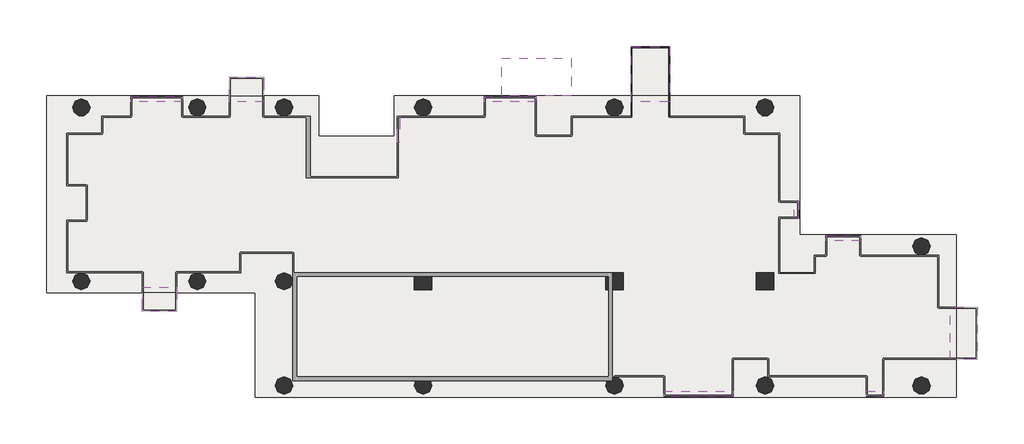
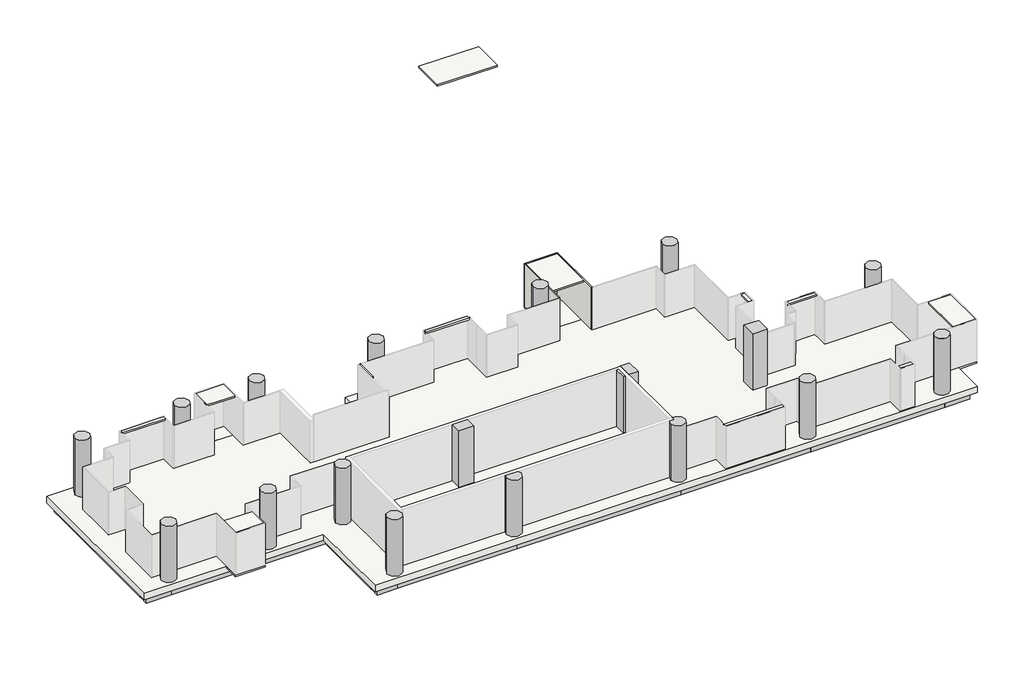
# One storey, part 2 of 2: 40 slabs, 25 beams, 18 columns, 3 walls.
"""IFC4 building model written with IfcOpenShell, lengths in millimetres."""

from ifc_helpers import new_model, si_unit, point, frame, frame_2d, origin, place, context, project, spatial, polyline, circle_curve, trimmed, segment, composite_curve, outline, extrude, faceted_brep, transform, mapped, element, save
from ifc_brep_helpers import plane_surface, cylinder_surface, advanced_brep
from components import ajn_arc_ossature_rec_ba_700x600_5242ffbb, ajn_arc_ossature_rec_ba_700x600_213c05e2, ajn_arc_ossature_rec_ba_700x600_4d623bda, ajn_arc_ossature_rec_ba_700x600_c2a8f1af, ajn_arc_ossature_rec_ba_700x600_b2f97811, ajn_arc_ossature_rec_ba_700x600_e688680c, ajn_arc_ossature_rec_ba_700x600_8adee879, ajn_arc_ossature_rec_ba_700x600_6677e51c, ajn_arc_ossature_rec_ba_700x600_60e35d56, ajn_arc_ossature_rec_ba_700x600_9ae0f913, ajn_arc_ossature_rec_ba_700x600_5c14351b, ajn_arc_ossature_rec_ba_700x600_e883967f, ajn_arc_ossature_rec_ba_700x600_0984b03c, ajn_arc_ossature_rec_ba_700x600_78f846f2, ajn_arc_ossature_rec_ba_700x600_e869caa8, ajn_arc_ossature_rec_ba_700x600_0388eb48, ajn_arc_ossature_rec_ba_700x600_e143517c, ajn_arc_ossature_rec_ba_700x600_758f1bfa, ajn_arc_ossature_rec_ba_700x600_64ba80e1, ajn_arc_poteau_circulaire_2a1b12bc

model = new_model("IFC4")

# Units and contexts
model_context = context("Model", 3, world=origin())
ifc_project = project(units=[si_unit("LENGTHUNIT", "METRE", prefix="MILLI")], contexts=[model_context])

# Site, building, storey
site = spatial("IfcSite", under=ifc_project)
building = spatial("IfcBuilding", under=site)
storey = spatial("IfcBuildingStorey", under=building, Name="TW-L 13", Elevation=45999.9999686)

# Beams
placement = place(None, origin())
ajn_arc_ossature_rec_ba_700x600_shape = ajn_arc_ossature_rec_ba_700x600_5242ffbb(model_context)
element("IfcBeam", 1, ObjectType="AJN-ARC-OSSATURE REC-BA : 700x600", at=placement, inside=storey, context=model_context, shape_type="MappedRepresentation", body=[
    mapped(ajn_arc_ossature_rec_ba_700x600_shape, transform((119350.0, 39300.0, 45449.9999686), x_axis=(-1.0, 0.0, 0.0), y_axis=(0.0, -1.0, 0.0), z_axis=(0.0, 0.0, 1.0))),
])
ajn_arc_ossature_rec_ba_700x600_2_shape = ajn_arc_ossature_rec_ba_700x600_213c05e2(model_context)
element("IfcBeam", 2, ObjectType="AJN-ARC-OSSATURE REC-BA : 700x600", at=placement, inside=storey, context=model_context, shape_type="MappedRepresentation", body=[
    mapped(ajn_arc_ossature_rec_ba_700x600_2_shape, transform((100900.0, 34800.0, 45449.9999686), x_axis=(0.0, -1.0, 0.0), y_axis=(1.0, 0.0, 0.0), z_axis=(0.0, 0.0, 1.0))),
])
ajn_arc_ossature_rec_ba_700x600_3_shape = ajn_arc_ossature_rec_ba_700x600_4d623bda(model_context)
element("IfcBeam", 3, ObjectType="AJN-ARC-OSSATURE REC-BA : 700x600", at=placement, inside=storey, context=model_context, shape_type="MappedRepresentation", body=[
    mapped(ajn_arc_ossature_rec_ba_700x600_3_shape, transform((112150.0, 24900.0, 45449.9999686), x_axis=(1.0, 0.0, 0.0), y_axis=(0.0, 1.0, 0.0), z_axis=(0.0, 0.0, 1.0))),
])
ajn_arc_ossature_rec_ba_700x600_4_shape = ajn_arc_ossature_rec_ba_700x600_c2a8f1af(model_context)
element("IfcBeam", 4, ObjectType="AJN-ARC-OSSATURE REC-BA : 700x600", at=placement, inside=storey, context=model_context, shape_type="MappedRepresentation", body=[
    mapped(ajn_arc_ossature_rec_ba_700x600_4_shape, transform((116200.0, 24900.0, 45449.9999686), x_axis=(1.0, 0.0, 0.0), y_axis=(0.0, 1.0, 0.0), z_axis=(0.0, 0.0, 1.0))),
])
ajn_arc_ossature_rec_ba_700x600_5_shape = ajn_arc_ossature_rec_ba_700x600_b2f97811(model_context)
element("IfcBeam", 5, ObjectType="AJN-ARC-OSSATURE REC-BA : 700x600", at=placement, inside=storey, context=model_context, shape_type="MappedRepresentation", body=[
    mapped(ajn_arc_ossature_rec_ba_700x600_5_shape, transform((106900.0, 30300.0, 45449.9999686), x_axis=(1.0, 0.0, 0.0), y_axis=(0.0, 1.0, 0.0), z_axis=(0.0, 0.0, 1.0))),
])
ajn_arc_ossature_rec_ba_700x600_6_shape = ajn_arc_ossature_rec_ba_700x600_e688680c(model_context)
element("IfcBeam", 6, ObjectType="AJN-ARC-OSSATURE REC-BA : 700x600", at=placement, inside=storey, context=model_context, shape_type="MappedRepresentation", body=[
    mapped(ajn_arc_ossature_rec_ba_700x600_6_shape, transform((111700.0, 27600.0, 45449.9999686), x_axis=(0.0, -1.0, 0.0), y_axis=(1.0, 0.0, 0.0), z_axis=(0.0, 0.0, 1.0))),
])
ajn_arc_ossature_rec_ba_700x600_7_shape = ajn_arc_ossature_rec_ba_700x600_8adee879(model_context)
element("IfcBeam", 7, ObjectType="AJN-ARC-OSSATURE REC-BA : 700x600", at=placement, inside=storey, context=model_context, shape_type="MappedRepresentation", body=[
    mapped(ajn_arc_ossature_rec_ba_700x600_7_shape, transform((124750.0, 24900.0, 45449.9999686), x_axis=(1.0, 0.0, 0.0), y_axis=(0.0, 1.0, 0.0), z_axis=(0.0, 0.0, 1.0))),
])
element("IfcBeam", 8, ObjectType="AJN-ARC-OSSATURE REC-BA : 700x600", at=placement, inside=storey, context=model_context, shape_type="MappedRepresentation", body=[
    mapped(ajn_arc_ossature_rec_ba_700x600_7_shape, transform((124750.0, 39300.0, 45449.9999686), x_axis=(-1.0, 0.0, 0.0), y_axis=(0.0, -1.0, 0.0), z_axis=(0.0, 0.0, 1.0))),
])
ajn_arc_ossature_rec_ba_700x600_8_shape = ajn_arc_ossature_rec_ba_700x600_6677e51c(model_context)
element("IfcBeam", 9, ObjectType="AJN-ARC-OSSATURE REC-BA : 700x600", at=placement, inside=storey, context=model_context, shape_type="MappedRepresentation", body=[
    mapped(ajn_arc_ossature_rec_ba_700x600_8_shape, transform((133600.0, 24900.0, 45449.9999686), x_axis=(1.0, 0.0, 0.0), y_axis=(0.0, 1.0, 0.0), z_axis=(0.0, 0.0, 1.0))),
])
ajn_arc_ossature_rec_ba_700x600_9_shape = ajn_arc_ossature_rec_ba_700x600_60e35d56(model_context)
element("IfcBeam", 10, ObjectType="AJN-ARC-OSSATURE REC-BA : 700x600", at=placement, inside=storey, context=model_context, shape_type="MappedRepresentation", body=[
    mapped(ajn_arc_ossature_rec_ba_700x600_9_shape, transform((141550.0, 24900.0, 45449.9999686), x_axis=(1.0, 0.0, 0.0), y_axis=(0.0, 1.0, 0.0), z_axis=(0.0, 0.0, 1.0))),
])
ajn_arc_ossature_rec_ba_700x600_10_shape = ajn_arc_ossature_rec_ba_700x600_9ae0f913(model_context)
element("IfcBeam", 11, ObjectType="AJN-ARC-OSSATURE REC-BA : 700x600", at=placement, inside=storey, context=model_context, shape_type="MappedRepresentation", body=[
    mapped(ajn_arc_ossature_rec_ba_700x600_10_shape, transform((146200.0, 24900.0, 45449.9999686), x_axis=(1.0, 0.0, 0.0), y_axis=(0.0, 1.0, 0.0), z_axis=(0.0, 0.0, 1.0))),
])
element("IfcBeam", 12, ObjectType="AJN-ARC-OSSATURE REC-BA : 700x600", at=placement, inside=storey, context=model_context, shape_type="MappedRepresentation", body=[
    mapped(ajn_arc_ossature_rec_ba_700x600_10_shape, transform((101500.0, 39300.0, 45449.9999686), x_axis=(-1.0, 0.0, 0.0), y_axis=(0.0, -1.0, 0.0), z_axis=(0.0, 0.0, 1.0))),
])
ajn_arc_ossature_rec_ba_700x600_11_shape = ajn_arc_ossature_rec_ba_700x600_5c14351b(model_context)
element("IfcBeam", 13, ObjectType="AJN-ARC-OSSATURE REC-BA : 700x600", at=placement, inside=storey, context=model_context, shape_type="MappedRepresentation", body=[
    mapped(ajn_arc_ossature_rec_ba_700x600_11_shape, transform((146800.0, 28500.0, 45449.9999686), x_axis=(0.0, 1.0, 0.0), y_axis=(-1.0, 0.0, 0.0), z_axis=(0.0, 0.0, 1.0))),
])
element("IfcBeam", 14, ObjectType="AJN-ARC-OSSATURE REC-BA : 700x600", at=placement, inside=storey, context=model_context, shape_type="MappedRepresentation", body=[
    mapped(ajn_arc_ossature_rec_ba_700x600_11_shape, transform((138700.0, 35700.0, 45449.9999686), x_axis=(0.0, 1.0, 0.0), y_axis=(-1.0, 0.0, 0.0), z_axis=(0.0, 0.0, 1.0))),
])
ajn_arc_ossature_rec_ba_700x600_12_shape = ajn_arc_ossature_rec_ba_700x600_e883967f(model_context)
element("IfcBeam", 15, ObjectType="AJN-ARC-OSSATURE REC-BA : 700x600", at=placement, inside=storey, context=model_context, shape_type="MappedRepresentation", body=[
    mapped(ajn_arc_ossature_rec_ba_700x600_12_shape, transform((146200.0, 32100.0, 45449.9999686), x_axis=(-1.0, 0.0, 0.0), y_axis=(0.0, -1.0, 0.0), z_axis=(0.0, 0.0, 1.0))),
])
element("IfcBeam", 16, ObjectType="AJN-ARC-OSSATURE REC-BA : 700x600", at=placement, inside=storey, context=model_context, shape_type="MappedRepresentation", body=[
    mapped(ajn_arc_ossature_rec_ba_700x600_12_shape, transform((138100.0, 39300.0, 45449.9999686), x_axis=(-1.0, 0.0, 0.0), y_axis=(0.0, -1.0, 0.0), z_axis=(0.0, 0.0, 1.0))),
])
element("IfcBeam", 17, ObjectType="AJN-ARC-OSSATURE REC-BA : 700x600", at=placement, inside=storey, context=model_context, shape_type="MappedRepresentation", body=[
    mapped(ajn_arc_ossature_rec_ba_700x600_12_shape, transform((113200.0, 39300.0, 45449.9999686), x_axis=(-1.0, 0.0, 0.0), y_axis=(0.0, -1.0, 0.0), z_axis=(0.0, 0.0, 1.0))),
])
element("IfcBeam", 18, ObjectType="AJN-ARC-OSSATURE REC-BA : 700x600", at=placement, inside=storey, context=model_context, shape_type="MappedRepresentation", body=[
    mapped(ajn_arc_ossature_rec_ba_700x600_12_shape, transform((101500.0, 30300.0, 45449.9999686), x_axis=(1.0, 0.0, 0.0), y_axis=(0.0, 1.0, 0.0), z_axis=(0.0, 0.0, 1.0))),
])
ajn_arc_ossature_rec_ba_700x600_13_shape = ajn_arc_ossature_rec_ba_700x600_0984b03c(model_context)
element("IfcBeam", 19, ObjectType="AJN-ARC-OSSATURE REC-BA : 700x600", at=placement, inside=storey, context=model_context, shape_type="MappedRepresentation", body=[
    mapped(ajn_arc_ossature_rec_ba_700x600_13_shape, transform((142150.0, 32100.0, 45449.9999686), x_axis=(-1.0, 0.0, 0.0), y_axis=(0.0, -1.0, 0.0), z_axis=(0.0, 0.0, 1.0))),
])
ajn_arc_ossature_rec_ba_700x600_14_shape = ajn_arc_ossature_rec_ba_700x600_78f846f2(model_context)
element("IfcBeam", 20, ObjectType="AJN-ARC-OSSATURE REC-BA : 700x600", at=placement, inside=storey, context=model_context, shape_type="MappedRepresentation", body=[
    mapped(ajn_arc_ossature_rec_ba_700x600_14_shape, transform((133600.0, 39300.0, 45449.9999686), x_axis=(-1.0, 0.0, 0.0), y_axis=(0.0, -1.0, 0.0), z_axis=(0.0, 0.0, 1.0))),
])
ajn_arc_ossature_rec_ba_700x600_15_shape = ajn_arc_ossature_rec_ba_700x600_e869caa8(model_context)
element("IfcBeam", 21, ObjectType="AJN-ARC-OSSATURE REC-BA : 700x600", at=placement, inside=storey, context=model_context, shape_type="MappedRepresentation", body=[
    mapped(ajn_arc_ossature_rec_ba_700x600_15_shape, transform((118900.0, 38250.0, 45449.9999686), x_axis=(0.0, -1.0, 0.0), y_axis=(1.0, 0.0, 0.0), z_axis=(0.0, 0.0, 1.0))),
])
ajn_arc_ossature_rec_ba_700x600_16_shape = ajn_arc_ossature_rec_ba_700x600_0388eb48(model_context)
element("IfcBeam", 22, ObjectType="AJN-ARC-OSSATURE REC-BA : 700x600", at=placement, inside=storey, context=model_context, shape_type="MappedRepresentation", body=[
    mapped(ajn_arc_ossature_rec_ba_700x600_16_shape, transform((110350.0, 39300.0, 45449.9999686), x_axis=(-1.0, 0.0, 0.0), y_axis=(0.0, -1.0, 0.0), z_axis=(0.0, 0.0, 1.0))),
])
ajn_arc_ossature_rec_ba_700x600_17_shape = ajn_arc_ossature_rec_ba_700x600_e143517c(model_context)
element("IfcBeam", 23, ObjectType="AJN-ARC-OSSATURE REC-BA : 700x600", at=placement, inside=storey, context=model_context, shape_type="MappedRepresentation", body=[
    mapped(ajn_arc_ossature_rec_ba_700x600_17_shape, transform((105100.0, 39300.0, 45449.9999686), x_axis=(-1.0, 0.0, 0.0), y_axis=(0.0, -1.0, 0.0), z_axis=(0.0, 0.0, 1.0))),
])
ajn_arc_ossature_rec_ba_700x600_18_shape = ajn_arc_ossature_rec_ba_700x600_758f1bfa(model_context)
element("IfcBeam", 24, ObjectType="AJN-ARC-OSSATURE REC-BA : 700x600", at=placement, inside=storey, context=model_context, shape_type="MappedRepresentation", body=[
    mapped(ajn_arc_ossature_rec_ba_700x600_18_shape, transform((116350.0, 37200.0, 45449.9999686), x_axis=(-1.0, 0.0, 0.0), y_axis=(0.0, -1.0, 0.0), z_axis=(0.0, 0.0, 1.0))),
])
ajn_arc_ossature_rec_ba_700x600_19_shape = ajn_arc_ossature_rec_ba_700x600_64ba80e1(model_context)
element("IfcBeam", 25, ObjectType="AJN-ARC-OSSATURE REC-BA : 700x600", at=placement, inside=storey, context=model_context, shape_type="MappedRepresentation", body=[
    mapped(ajn_arc_ossature_rec_ba_700x600_19_shape, transform((113800.0, 38250.0, 45449.9999686), x_axis=(0.0, 1.0, 0.0), y_axis=(-1.0, 0.0, 0.0), z_axis=(0.0, 0.0, 1.0))),
])

# Columns
element("IfcColumn", 26, ObjectType="AJN-ARC-POTEAU CIRCULAIRE : ø90", at=placement, inside=storey, context=model_context, shape_type="SweptSolid", body=[
    extrude(outline(composite_curve([segment(trimmed(circle_curve(frame_2d((102100.0, 30300.0)), 450.0), [point((101650.0, 30300.0))], [point((102550.0, 30300.0))], False, "CARTESIAN"), True, "CONTINUOUS"), segment(trimmed(circle_curve(frame_2d((102100.0, 30300.0)), 450.0), [point((102550.0, 30300.0))], [point((101650.0, 30300.0))], False, "CARTESIAN"), True, "CONTINUOUS")], self_intersect=False)), frame((0.0, 0.0, 45999.9999686), z_axis=(0.0, 0.0, 1.0), x_axis=(1.0, 0.0, 0.0)), (0.0, 0.0, 1.0), 3600.0),
])
element("IfcColumn", 27, ObjectType="AJN-ARC-POTEAU CIRCULAIRE : ø90", at=placement, inside=storey, context=model_context, shape_type="SweptSolid", body=[
    extrude(outline(composite_curve([segment(trimmed(circle_curve(frame_2d((108100.0, 30300.0)), 450.0), [point((107650.0, 30300.0))], [point((108550.0, 30300.0))], False, "CARTESIAN"), True, "CONTINUOUS"), segment(trimmed(circle_curve(frame_2d((108100.0, 30300.0)), 450.0), [point((108550.0, 30300.0))], [point((107650.0, 30300.0))], False, "CARTESIAN"), True, "CONTINUOUS")], self_intersect=False)), frame((0.0, 0.0, 45999.9999686), z_axis=(0.0, 0.0, 1.0), x_axis=(1.0, 0.0, 0.0)), (0.0, 0.0, 1.0), 3600.0),
])
element("IfcColumn", 28, ObjectType="AJN-ARC-POTEAU CIRCULAIRE : ø90", at=placement, inside=storey, context=model_context, shape_type="SweptSolid", body=[
    extrude(outline(composite_curve([segment(trimmed(circle_curve(frame_2d((108100.0, 39300.0)), 450.0), [point((107650.0, 39300.0))], [point((108550.0, 39300.0))], False, "CARTESIAN"), True, "CONTINUOUS"), segment(trimmed(circle_curve(frame_2d((108100.0, 39300.0)), 450.0), [point((108550.0, 39300.0))], [point((107650.0, 39300.0))], False, "CARTESIAN"), True, "CONTINUOUS")], self_intersect=False)), frame((0.0, 0.0, 45999.9999686), z_axis=(0.0, 0.0, 1.0), x_axis=(1.0, 0.0, 0.0)), (0.0, 0.0, 1.0), 3600.0),
])
element("IfcColumn", 29, ObjectType="AJN-ARC-POTEAU CIRCULAIRE : ø90", at=placement, inside=storey, context=model_context, shape_type="SweptSolid", body=[
    extrude(outline(composite_curve([segment(trimmed(circle_curve(frame_2d((112600.0, 39300.0)), 450.0), [point((112150.0, 39300.0))], [point((113050.0, 39300.0))], False, "CARTESIAN"), True, "CONTINUOUS"), segment(trimmed(circle_curve(frame_2d((112600.0, 39300.0)), 450.0), [point((113050.0, 39300.0))], [point((112150.0, 39300.0))], False, "CARTESIAN"), True, "CONTINUOUS")], self_intersect=False)), frame((0.0, 0.0, 45999.9999686), z_axis=(0.0, 0.0, 1.0), x_axis=(1.0, 0.0, 0.0)), (0.0, 0.0, 1.0), 3600.0),
])
element("IfcColumn", 30, ObjectType="AJN-ARC-POTEAU CIRCULAIRE : ø90", at=placement, inside=storey, context=model_context, shape_type="SweptSolid", body=[
    extrude(outline(composite_curve([segment(trimmed(circle_curve(frame_2d((112600.0, 30300.0)), 450.0), [point((112150.0, 30300.0))], [point((113050.0, 30300.0))], False, "CARTESIAN"), True, "CONTINUOUS"), segment(trimmed(circle_curve(frame_2d((112600.0, 30300.0)), 450.0), [point((113050.0, 30300.0))], [point((112150.0, 30300.0))], False, "CARTESIAN"), True, "CONTINUOUS")], self_intersect=False)), frame((0.0, 0.0, 45999.9999686), z_axis=(0.0, 0.0, 1.0), x_axis=(1.0, 0.0, 0.0)), (0.0, 0.0, 1.0), 3600.0),
])
element("IfcColumn", 31, ObjectType="AJN-ARC-POTEAU CIRCULAIRE : ø90", at=placement, inside=storey, context=model_context, shape_type="SweptSolid", body=[
    extrude(outline(composite_curve([segment(trimmed(circle_curve(frame_2d((112600.0, 24900.0)), 450.0), [point((112150.0, 24900.0))], [point((113050.0, 24900.0))], False, "CARTESIAN"), True, "CONTINUOUS"), segment(trimmed(circle_curve(frame_2d((112600.0, 24900.0)), 450.0), [point((113050.0, 24900.0))], [point((112150.0, 24900.0))], False, "CARTESIAN"), True, "CONTINUOUS")], self_intersect=False)), frame((0.0, 0.0, 45999.9999686), z_axis=(0.0, 0.0, 1.0), x_axis=(1.0, 0.0, 0.0)), (0.0, 0.0, 1.0), 3600.0),
])
element("IfcColumn", 32, ObjectType="AJN-ARC-POTEAU CIRCULAIRE : ø90", at=placement, inside=storey, context=model_context, shape_type="SweptSolid", body=[
    extrude(outline(composite_curve([segment(trimmed(circle_curve(frame_2d((119800.0, 24900.0)), 450.0), [point((120250.0, 24900.0))], [point((119350.0, 24900.0))], False, "CARTESIAN"), True, "CONTINUOUS"), segment(trimmed(circle_curve(frame_2d((119800.0, 24900.0)), 450.0), [point((119350.0, 24900.0))], [point((119425.8342613, 25150.0))], False, "CARTESIAN"), True, "CONTINUOUS"), segment(polyline([(119425.8342613, 25150.0), (120174.1657387, 25150.0)]), True, "CONTINUOUS"), segment(trimmed(circle_curve(frame_2d((119800.0, 24900.0)), 450.0), [point((120174.1657387, 25150.0))], [point((120250.0, 24900.0))], False, "CARTESIAN"), True, "CONTINUOUS")], self_intersect=False)), frame((0.0, 0.0, 45999.9999686), z_axis=(0.0, 0.0, 1.0), x_axis=(1.0, 0.0, 0.0)), (0.0, 0.0, 1.0), 3600.0),
])
element("IfcColumn", 33, ObjectType="AJN-ARC-POTEAU CIRCULAIRE : ø90", at=placement, inside=storey, context=model_context, shape_type="SweptSolid", body=[
    extrude(outline(composite_curve([segment(trimmed(circle_curve(frame_2d((119800.0, 39300.0)), 450.0), [point((119350.0, 39300.0))], [point((120250.0, 39300.0))], False, "CARTESIAN"), True, "CONTINUOUS"), segment(trimmed(circle_curve(frame_2d((119800.0, 39300.0)), 450.0), [point((120250.0, 39300.0))], [point((119350.0, 39300.0))], False, "CARTESIAN"), True, "CONTINUOUS")], self_intersect=False)), frame((0.0, 0.0, 45999.9999686), z_axis=(0.0, 0.0, 1.0), x_axis=(1.0, 0.0, 0.0)), (0.0, 0.0, 1.0), 3600.0),
])
element("IfcColumn", 34, ObjectType="AJN-ARC-POTEAU CIRCULAIRE : ø90", at=placement, inside=storey, context=model_context, shape_type="SweptSolid", body=[
    extrude(outline(composite_curve([segment(trimmed(circle_curve(frame_2d((129700.0, 39300.0)), 450.0), [point((129250.0, 39300.0))], [point((130150.0, 39300.0))], False, "CARTESIAN"), True, "CONTINUOUS"), segment(trimmed(circle_curve(frame_2d((129700.0, 39300.0)), 450.0), [point((130150.0, 39300.0))], [point((129250.0, 39300.0))], False, "CARTESIAN"), True, "CONTINUOUS")], self_intersect=False)), frame((0.0, 0.0, 45999.9999686), z_axis=(0.0, 0.0, 1.0), x_axis=(1.0, 0.0, 0.0)), (0.0, 0.0, 1.0), 3600.0),
])
element("IfcColumn", 35, ObjectType="AJN-ARC-POTEAU CIRCULAIRE : ø90", at=placement, inside=storey, context=model_context, shape_type="SweptSolid", body=[
    extrude(outline(composite_curve([segment(trimmed(circle_curve(frame_2d((129700.0, 24900.0)), 450.0), [point((130150.0, 24900.0))], [point((129250.0, 24900.0))], False, "CARTESIAN"), True, "CONTINUOUS"), segment(trimmed(circle_curve(frame_2d((129700.0, 24900.0)), 450.0), [point((129250.0, 24900.0))], [point((129325.8342613, 25150.0))], False, "CARTESIAN"), True, "CONTINUOUS"), segment(polyline([(129325.8342613, 25150.0), (129600.0, 25150.0), (129600.0, 25338.7482194)]), True, "CONTINUOUS"), segment(trimmed(circle_curve(frame_2d((129700.0, 24900.0)), 450.0), [point((129600.0, 25338.7482194))], [point((130150.0, 24900.0))], False, "CARTESIAN"), True, "CONTINUOUS")], self_intersect=False)), frame((0.0, 0.0, 45999.9999686), z_axis=(0.0, 0.0, 1.0), x_axis=(1.0, 0.0, 0.0)), (0.0, 0.0, 1.0), 3600.0),
])
element("IfcColumn", 36, ObjectType="AJN-ARC-POTEAU CIRCULAIRE : ø90", at=placement, inside=storey, context=model_context, shape_type="SweptSolid", body=[
    extrude(outline(composite_curve([segment(trimmed(circle_curve(frame_2d((137500.0, 24900.0)), 450.0), [point((137050.0, 24900.0))], [point((137950.0, 24900.0))], False, "CARTESIAN"), True, "CONTINUOUS"), segment(trimmed(circle_curve(frame_2d((137500.0, 24900.0)), 450.0), [point((137950.0, 24900.0))], [point((137050.0, 24900.0))], False, "CARTESIAN"), True, "CONTINUOUS")], self_intersect=False)), frame((0.0, 0.0, 45999.9999686), z_axis=(0.0, 0.0, 1.0), x_axis=(1.0, 0.0, 0.0)), (0.0, 0.0, 1.0), 3600.0),
])
element("IfcColumn", 37, ObjectType="AJN-ARC-POTEAU CIRCULAIRE : ø90", at=placement, inside=storey, context=model_context, shape_type="AdvancedBrep", body=[
    advanced_brep(
    [(145150.0, 32100.0, 45999.9999686), (146050.0, 32100.0, 45999.9999686), (145638.6089983, 31651.6593424, 45999.9999686), (145561.3910017, 31651.6593424, 45999.9999686), (145150.0, 32100.0, 49599.9999686), (146050.0, 32100.0, 49599.9999686), (145561.3910017, 31651.6593424, 48699.9999686), (145638.6089983, 31651.6593424, 48699.9999686)],
    [
        (0, 1, circle_curve(frame((145600.0, 32100.0, 45999.9999686), z_axis=(0.0, 0.0, -1.0), x_axis=(1.0, 0.0, 0.0)), 450.0)),
        (1, 2, circle_curve(frame((145600.0, 32100.0, 45999.9999686), z_axis=(0.0, 0.0, -1.0), x_axis=(1.0, 0.0, 0.0)), 450.0)),
        (2, 3),
        (3, 0, circle_curve(frame((145600.0, 32100.0, 45999.9999686), z_axis=(0.0, 0.0, -1.0), x_axis=(1.0, 0.0, 0.0)), 450.0)),
        (0, 4),
        (4, 5, circle_curve(frame((145600.0, 32100.0, 49599.9999686), z_axis=(0.0, 0.0, -1.0), x_axis=(1.0, 0.0, 0.0)), 450.0)),
        (5, 1),
        (5, 4, circle_curve(frame((145600.0, 32100.0, 49599.9999686), z_axis=(0.0, 0.0, -1.0), x_axis=(1.0, 0.0, 0.0)), 450.0)),
        (3, 6),
        (6, 7, circle_curve(frame((145600.0, 32100.0, 48699.9999686), z_axis=(0.0, 0.0, 1.0), x_axis=(1.0, 0.0, 0.0)), 450.0)),
        (7, 2),
        (7, 6),
    ],
    [
        plane_surface(frame((146050.0, 32100.0, 45999.9999686), z_axis=(0.0, 0.0, -1.0), x_axis=(0.0, -1.0, 0.0))),
        cylinder_surface(frame((145600.0, 32100.0, 45999.9999686), z_axis=(0.0, 0.0, 1.0), x_axis=(1.0, 0.0, 0.0)), 450.0),
        plane_surface(frame((146050.0, 32100.0, 49599.9999686), z_axis=(0.0, 0.0, 1.0), x_axis=(0.0, 1.0, 0.0))),
        plane_surface(frame((146472.681474, 31651.6593424, 45999.9999686), z_axis=(0.0, -1.0, 0.0), x_axis=(-1.0, 0.0, 0.0))),
        plane_surface(frame((142450.0, 31651.6593424, 48699.9999686), z_axis=(0.0, 0.0, -1.0), x_axis=(0.0, -1.0, 0.0))),
    ],
    [
        (0, [[1, 2, 3, 4]]),
        (1, [[-1, 5, 6, 7]]),
        (1, [[-7, 8, -5, -4, 9, 10, 11, -2]]),
        (2, [[-6, -8]]),
        (3, [[12, -9, -3, -11]]),
        (4, [[-12, -10]]),
    ],
),
])
ajn_arc_poteau_circulaire_shape = ajn_arc_poteau_circulaire_2a1b12bc(model_context)
element("IfcColumn", 38, ObjectType="AJN-ARC-POTEAU CIRCULAIRE : ø90", at=placement, inside=storey, context=model_context, shape_type="MappedRepresentation", body=[
    mapped(ajn_arc_poteau_circulaire_shape, transform((102100.0, 39300.0, 0.0), x_axis=(1.0, 0.0, 0.0), y_axis=(0.0, 1.0, 0.0), z_axis=(0.0, 0.0, 1.0))),
])
element("IfcColumn", 39, ObjectType="AJN-ARC-POTEAU CIRCULAIRE : ø90", at=placement, inside=storey, context=model_context, shape_type="MappedRepresentation", body=[
    mapped(ajn_arc_poteau_circulaire_shape, transform((137500.0, 39300.0, 0.0), x_axis=(1.0, 0.0, 0.0), y_axis=(0.0, 1.0, 0.0), z_axis=(0.0, 0.0, 1.0))),
])
element("IfcColumn", 40, ObjectType="AJN-ARC-POTEAU CIRCULAIRE : ø90", at=placement, inside=storey, context=model_context, shape_type="MappedRepresentation", body=[
    mapped(ajn_arc_poteau_circulaire_shape, transform((145600.0, 24900.0, 0.0), x_axis=(1.0, 0.0, 0.0), y_axis=(0.0, 1.0, 0.0), z_axis=(0.0, 0.0, 1.0))),
])
element("IfcColumn", 41, ObjectType="AJN-ARC-POTEAU RECTANGULAIRE : 900 mm x 900 mm", at=placement, inside=storey, context=model_context, shape_type="SweptSolid", body=[
    extrude(outline(polyline([(137950.0, 30750.0), (137950.0, 29850.0), (137050.0, 29850.0), (137050.0, 30750.0), (137950.0, 30750.0)])), frame((0.0, 0.0, 45999.9999686), z_axis=(0.0, 0.0, 1.0), x_axis=(1.0, 0.0, 0.0)), (0.0, 0.0, 1.0), 3600.0),
])
element("IfcColumn", 42, ObjectType="AJN-ARC-POTEAU RECTANGULAIRE : 900 mm x 900 mm", at=placement, inside=storey, context=model_context, shape_type="SweptSolid", body=[
    extrude(outline(polyline([(129400.0, 29850.0), (129250.0, 29850.0), (129250.0, 30550.0), (129400.0, 30550.0), (129400.0, 29850.0)])), frame((0.0, 0.0, 45999.9999686), z_axis=(0.0, 0.0, 1.0), x_axis=(1.0, 0.0, 0.0)), (0.0, 0.0, 1.0), 3600.0),
    extrude(outline(polyline([(130150.0, 30750.0), (130150.0, 29850.0), (129600.0, 29850.0), (129600.0, 30750.0), (130150.0, 30750.0)])), frame((0.0, 0.0, 45999.9999686), z_axis=(0.0, 0.0, 1.0), x_axis=(1.0, 0.0, 0.0)), (0.0, 0.0, 1.0), 3600.0),
])
element("IfcColumn", 43, ObjectType="AJN-ARC-POTEAU RECTANGULAIRE : 900 mm x 900 mm", at=placement, inside=storey, context=model_context, shape_type="SweptSolid", body=[
    extrude(outline(polyline([(120250.0, 29850.0), (119350.0, 29850.0), (119350.0, 30550.0), (120250.0, 30550.0), (120250.0, 29850.0)])), frame((0.0, 0.0, 45999.9999686), z_axis=(0.0, 0.0, 1.0), x_axis=(1.0, 0.0, 0.0)), (0.0, 0.0, 1.0), 3600.0),
])

# Slabs
element("IfcSlab", 44, ObjectType="AJN-ARC-SLAB-10cm", at=placement, inside=storey, context=model_context, shape_type="SweptSolid", body=[
    extrude(outline(polyline([(148497.681474, 26250.0), (147400.0, 26250.0), (147400.0, 28950.0), (148497.681474, 28950.0), (148497.681474, 26250.0)])), frame((0.0, 0.0, 45899.9999686), z_axis=(0.0, 0.0, 1.0), x_axis=(1.0, 0.0, 0.0)), (0.0, 0.0, 1.0), 100.0),
])
element("IfcSlab", 45, ObjectType="AJN-ARC-SLAB-10cm", at=placement, inside=storey, context=model_context, shape_type="SweptSolid", body=[
    extrude(outline(polyline([(111550.0, 39900.0), (109750.0, 39900.0), (109750.0, 40850.0), (111550.0, 40850.0), (111550.0, 39900.0)])), frame((0.0, 0.0, 45899.9999686), z_axis=(0.0, 0.0, 1.0), x_axis=(1.0, 0.0, 0.0)), (0.0, 0.0, 1.0), 100.0),
])
element("IfcSlab", 46, ObjectType="AJN-ARC-SLAB-10cm", at=placement, inside=storey, context=model_context, shape_type="SweptSolid", body=[
    extrude(outline(polyline([(132561.0540705, 39900.0), (130561.0540705, 39900.0), (130561.0540705, 42450.0), (132561.0540705, 42450.0), (132561.0540705, 39900.0)])), frame((0.0, 0.0, 45899.9999686), z_axis=(0.0, 0.0, 1.0), x_axis=(1.0, 0.0, 0.0)), (0.0, 0.0, 1.0), 100.0),
])
element("IfcSlab", 47, ObjectType="AJN-ARC-SLAB-10cm", at=placement, inside=storey, context=model_context, shape_type="SweptSolid", body=[
    extrude(outline(polyline([(107047.1743518, 28750.0), (105247.1743518, 28750.0), (105247.1743518, 29700.0), (107047.1743518, 29700.0), (107047.1743518, 28750.0)])), frame((0.0, 0.0, 45899.9999686), z_axis=(0.0, 0.0, 1.0), x_axis=(1.0, 0.0, 0.0)), (0.0, 0.0, 1.0), 100.0),
])
element("IfcSlab", 48, ObjectType="AJN-ARC-SLAB-10cm", at=placement, inside=storey, context=model_context, shape_type="SweptSolid", body=[
    extrude(outline(polyline([(107047.1743518, 28750.0), (105247.1743518, 28750.0), (105247.1743518, 29700.0), (107047.1743518, 29700.0), (107047.1743518, 28750.0)])), frame((0.0, 0.0, 45899.9999686), z_axis=(0.0, 0.0, 1.0), x_axis=(1.0, 0.0, 0.0)), (0.0, 0.0, 1.0), 100.0),
])
element("IfcSlab", 49, ObjectType="AJN-ARC-SLAB-10cm", at=placement, inside=storey, context=model_context, shape_type="SweptSolid", body=[
    extrude(outline(polyline([(107047.1743518, 28750.0), (105247.1743518, 28750.0), (105247.1743518, 29700.0), (107047.1743518, 29700.0), (107047.1743518, 28750.0)])), frame((0.0, 0.0, 45899.9999686), z_axis=(0.0, 0.0, 1.0), x_axis=(1.0, 0.0, 0.0)), (0.0, 0.0, 1.0), 100.0),
])
element("IfcSlab", 50, ObjectType="AJN-ARC-SLAB-10cm", at=placement, inside=storey, context=model_context, shape_type="SweptSolid", body=[
    extrude(outline(polyline([(107047.1743518, 28750.0), (105247.1743518, 28750.0), (105247.1743518, 29700.0), (107047.1743518, 29700.0), (107047.1743518, 28750.0)])), frame((0.0, 0.0, 45899.9999686), z_axis=(0.0, 0.0, 1.0), x_axis=(1.0, 0.0, 0.0)), (0.0, 0.0, 1.0), 100.0),
])
element("IfcSlab", 51, ObjectType="AJN-ARC-SLAB-10cm", at=placement, inside=storey, context=model_context, shape_type="SweptSolid", body=[
    extrude(outline(polyline([(107047.1743518, 28750.0), (105247.1743518, 28750.0), (105247.1743518, 29700.0), (107047.1743518, 29700.0), (107047.1743518, 28750.0)])), frame((0.0, 0.0, 45899.9999686), z_axis=(0.0, 0.0, 1.0), x_axis=(1.0, 0.0, 0.0)), (0.0, 0.0, 1.0), 100.0),
])
element("IfcSlab", 52, ObjectType="AJN-ARC-SLAB-10cm", at=placement, inside=storey, context=model_context, shape_type="SweptSolid", body=[
    extrude(outline(polyline([(107047.1743518, 28750.0), (105247.1743518, 28750.0), (105247.1743518, 29700.0), (107047.1743518, 29700.0), (107047.1743518, 28750.0)])), frame((0.0, 0.0, 45899.9999686), z_axis=(0.0, 0.0, 1.0), x_axis=(1.0, 0.0, 0.0)), (0.0, 0.0, 1.0), 100.0),
])
element("IfcSlab", 53, ObjectType="AJN-ARC-SLAB-10cm", at=placement, inside=storey, context=model_context, shape_type="SweptSolid", body=[
    extrude(outline(polyline([(107047.1743518, 28750.0), (105247.1743518, 28750.0), (105247.1743518, 29700.0), (107047.1743518, 29700.0), (107047.1743518, 28750.0)])), frame((0.0, 0.0, 45899.9999686), z_axis=(0.0, 0.0, 1.0), x_axis=(1.0, 0.0, 0.0)), (0.0, 0.0, 1.0), 100.0),
])
element("IfcSlab", 54, ObjectType="AJN-ARC-SLAB-10cm", at=placement, inside=storey, context=model_context, shape_type="SweptSolid", body=[
    extrude(outline(polyline([(107047.1743518, 28750.0), (105247.1743518, 28750.0), (105247.1743518, 29700.0), (107047.1743518, 29700.0), (107047.1743518, 28750.0)])), frame((0.0, 0.0, 45899.9999686), z_axis=(0.0, 0.0, 1.0), x_axis=(1.0, 0.0, 0.0)), (0.0, 0.0, 1.0), 100.0),
])
element("IfcSlab", 55, ObjectType="AJN-ARC-SLAB-10cm", at=placement, inside=storey, context=model_context, shape_type="SweptSolid", body=[
    extrude(outline(polyline([(107047.1743518, 28750.0), (105247.1743518, 28750.0), (105247.1743518, 29700.0), (107047.1743518, 29700.0), (107047.1743518, 28750.0)])), frame((0.0, 0.0, 45899.9999686), z_axis=(0.0, 0.0, 1.0), x_axis=(1.0, 0.0, 0.0)), (0.0, 0.0, 1.0), 100.0),
])
element("IfcSlab", 56, ObjectType="AJN-ARC-SLAB-10cm", at=placement, inside=storey, context=model_context, shape_type="SweptSolid", body=[
    extrude(outline(polyline([(107047.1743518, 28750.0), (105247.1743518, 28750.0), (105247.1743518, 29700.0), (107047.1743518, 29700.0), (107047.1743518, 28750.0)])), frame((0.0, 0.0, 45899.9999686), z_axis=(0.0, 0.0, 1.0), x_axis=(1.0, 0.0, 0.0)), (0.0, 0.0, 1.0), 100.0),
])
element("IfcSlab", 57, ObjectType="AJN-ARC-SLAB-10cm", at=placement, inside=storey, context=model_context, shape_type="SweptSolid", body=[
    extrude(outline(polyline([(107047.1743518, 28750.0), (105247.1743518, 28750.0), (105247.1743518, 29700.0), (107047.1743518, 29700.0), (107047.1743518, 28750.0)])), frame((0.0, 0.0, 45899.9999686), z_axis=(0.0, 0.0, 1.0), x_axis=(1.0, 0.0, 0.0)), (0.0, 0.0, 1.0), 100.0),
])
element("IfcSlab", 58, ObjectType="AJN-ARC-SLAB-10cm", at=placement, inside=storey, context=model_context, shape_type="SweptSolid", body=[
    extrude(outline(polyline([(107047.1743518, 28750.0), (105247.1743518, 28750.0), (105247.1743518, 29700.0), (107047.1743518, 29700.0), (107047.1743518, 28750.0)])), frame((0.0, 0.0, 45899.9999686), z_axis=(0.0, 0.0, 1.0), x_axis=(1.0, 0.0, 0.0)), (0.0, 0.0, 1.0), 100.0),
])
element("IfcSlab", 59, ObjectType="AJN-ARC-SLAB-10cm", at=placement, inside=storey, context=model_context, shape_type="SweptSolid", body=[
    extrude(outline(polyline([(107047.1743518, 28750.0), (105247.1743518, 28750.0), (105247.1743518, 29700.0), (107047.1743518, 29700.0), (107047.1743518, 28750.0)])), frame((0.0, 0.0, 45899.9999686), z_axis=(0.0, 0.0, 1.0), x_axis=(1.0, 0.0, 0.0)), (0.0, 0.0, 1.0), 100.0),
])
element("IfcSlab", 60, ObjectType="AJN-ARC-SLAB-10cm", at=placement, inside=storey, context=model_context, shape_type="SweptSolid", body=[
    extrude(outline(polyline([(107047.1743518, 28750.0), (105247.1743518, 28750.0), (105247.1743518, 29700.0), (107047.1743518, 29700.0), (107047.1743518, 28750.0)])), frame((0.0, 0.0, 45899.9999686), z_axis=(0.0, 0.0, 1.0), x_axis=(1.0, 0.0, 0.0)), (0.0, 0.0, 1.0), 100.0),
])
element("IfcSlab", 61, ObjectType="AJN-ARC-SLAB-10cm", at=placement, inside=storey, context=model_context, shape_type="SweptSolid", body=[
    extrude(outline(polyline([(107047.1743518, 28750.0), (105247.1743518, 28750.0), (105247.1743518, 29700.0), (107047.1743518, 29700.0), (107047.1743518, 28750.0)])), frame((0.0, 0.0, 45899.9999686), z_axis=(0.0, 0.0, 1.0), x_axis=(1.0, 0.0, 0.0)), (0.0, 0.0, 1.0), 100.0),
])
element("IfcSlab", 62, ObjectType="AJN-ARC-SLAB-10cm", at=placement, inside=storey, context=model_context, shape_type="SweptSolid", body=[
    extrude(outline(polyline([(107047.1743518, 28750.0), (105247.1743518, 28750.0), (105247.1743518, 29700.0), (107047.1743518, 29700.0), (107047.1743518, 28750.0)])), frame((0.0, 0.0, 45899.9999686), z_axis=(0.0, 0.0, 1.0), x_axis=(1.0, 0.0, 0.0)), (0.0, 0.0, 1.0), 100.0),
])
element("IfcSlab", 63, ObjectType="AJN-ARC-SLAB-10cm", at=placement, inside=storey, context=model_context, shape_type="SweptSolid", body=[
    extrude(outline(polyline([(118600.0, 37500.0), (118450.0, 37500.0), (118450.0, 38850.0), (118600.0, 38850.0), (118600.0, 37500.0)])), frame((0.0, 0.0, 48599.9999686), z_axis=(0.0, 0.0, 1.0), x_axis=(1.0, 0.0, 0.0)), (0.0, 0.0, 1.0), 100.0),
])
element("IfcSlab", 64, ObjectType="AJN-ARC-SLAB-10cm", at=placement, inside=storey, context=model_context, shape_type="SweptSolid", body=[
    extrude(outline(polyline([(142450.0, 32400.0), (140650.0, 32400.0), (140650.0, 32651.6593424), (142450.0, 32651.6593424), (142450.0, 32400.0)])), frame((0.0, 0.0, 48599.9999686), z_axis=(0.0, 0.0, 1.0), x_axis=(1.0, 0.0, 0.0)), (0.0, 0.0, 1.0), 100.0),
])
element("IfcSlab", 65, ObjectType="AJN-ARC-SLAB-10cm", at=placement, inside=storey, context=model_context, shape_type="SweptSolid", body=[
    extrude(outline(polyline([(125663.0639015, 39600.0), (122963.0639015, 39600.0), (122963.0639015, 39850.0), (125663.0639015, 39850.0), (125663.0639015, 39600.0)])), frame((0.0, 0.0, 48599.9999686), z_axis=(0.0, 0.0, 1.0), x_axis=(1.0, 0.0, 0.0)), (0.0, 0.0, 1.0), 100.0),
])
element("IfcSlab", 66, ObjectType="AJN-ARC-SLAB-10cm", at=placement, inside=storey, context=model_context, shape_type="SweptSolid", body=[
    extrude(outline(polyline([(107047.1743518, 28750.0), (105247.1743518, 28750.0), (105247.1743518, 30000.0), (107047.1743518, 30000.0), (107047.1743518, 28750.0)])), frame((0.0, 0.0, 48599.9999686), z_axis=(0.0, 0.0, 1.0), x_axis=(1.0, 0.0, 0.0)), (0.0, 0.0, 1.0), 100.0),
])
element("IfcSlab", 67, ObjectType="AJN-ARC-SLAB-10cm", at=placement, inside=storey, context=model_context, shape_type="SweptSolid", body=[
    extrude(outline(polyline([(139250.0, 33550.0), (139000.0, 33550.0), (139000.0, 34450.0), (139250.0, 34450.0), (139250.0, 33550.0)])), frame((0.0, 0.0, 48599.9999686), z_axis=(0.0, 0.0, 1.0), x_axis=(1.0, 0.0, 0.0)), (0.0, 0.0, 1.0), 100.0),
])
element("IfcSlab", 68, ObjectType="AJN-ARC-SLAB-10cm", at=placement, inside=storey, context=model_context, shape_type="SweptSolid", body=[
    extrude(outline(polyline([(132561.0540705, 39600.0), (130561.0540705, 39600.0), (130561.0540705, 42450.0), (132561.0540705, 42450.0), (132561.0540705, 39600.0)])), frame((0.0, 0.0, 48599.9999686), z_axis=(0.0, 0.0, 1.0), x_axis=(1.0, 0.0, 0.0)), (0.0, 0.0, 1.0), 100.0),
])
element("IfcSlab", 69, ObjectType="AJN-ARC-SLAB-10cm", at=placement, inside=storey, context=model_context, shape_type="SweptSolid", body=[
    extrude(outline(polyline([(107350.0, 39600.0), (104650.0, 39600.0), (104650.0, 39850.0), (107350.0, 39850.0), (107350.0, 39600.0)])), frame((0.0, 0.0, 48599.9999686), z_axis=(0.0, 0.0, 1.0), x_axis=(1.0, 0.0, 0.0)), (0.0, 0.0, 1.0), 100.0),
])
element("IfcSlab", 70, ObjectType="AJN-ARC-SLAB-10cm", at=placement, inside=storey, context=model_context, shape_type="SweptSolid", body=[
    extrude(outline(polyline([(135850.2843667, 24350.0), (132250.2843667, 24350.0), (132250.2843667, 24600.0), (135850.2843667, 24600.0), (135850.2843667, 24350.0)])), frame((0.0, 0.0, 48599.9999686), z_axis=(0.0, 0.0, 1.0), x_axis=(1.0, 0.0, 0.0)), (0.0, 0.0, 1.0), 100.0),
])
element("IfcSlab", 71, ObjectType="AJN-ARC-SLAB-10cm", at=placement, inside=storey, context=model_context, shape_type="SweptSolid", body=[
    extrude(outline(polyline([(111550.0, 39600.0), (109750.0, 39600.0), (109750.0, 40850.0), (111550.0, 40850.0), (111550.0, 39600.0)])), frame((0.0, 0.0, 48599.9999686), z_axis=(0.0, 0.0, 1.0), x_axis=(1.0, 0.0, 0.0)), (0.0, 0.0, 1.0), 100.0),
])
element("IfcSlab", 72, ObjectType="AJN-ARC-SLAB-10cm", at=placement, inside=storey, context=model_context, shape_type="SweptSolid", body=[
    extrude(outline(polyline([(148497.681474, 26250.0), (147100.0, 26250.0), (147100.0, 28950.0), (148497.681474, 28950.0), (148497.681474, 26250.0)])), frame((0.0, 0.0, 48599.9999686), z_axis=(0.0, 0.0, 1.0), x_axis=(1.0, 0.0, 0.0)), (0.0, 0.0, 1.0), 100.0),
])
element("IfcSlab", 73, ObjectType="AJN-ARC-SLAB-10cm", at=placement, inside=storey, context=model_context, shape_type="SweptSolid", body=[
    extrude(outline(polyline([(143650.0711147, 24350.0), (142750.0711147, 24350.0), (142750.0711147, 24600.0), (143650.0711147, 24600.0), (143650.0711147, 24350.0)])), frame((0.0, 0.0, 48599.9999686), z_axis=(0.0, 0.0, 1.0), x_axis=(1.0, 0.0, 0.0)), (0.0, 0.0, 1.0), 100.0),
])
element("IfcSlab", 74, ObjectType="AJN-ARC-SLAB-10cm", at=placement, inside=storey, context=model_context, shape_type="SweptSolid", body=[
    extrude(outline(polyline([(143650.0711147, 24350.0), (142750.0711147, 24350.0), (142750.0711147, 24600.0), (143650.0711147, 24600.0), (143650.0711147, 24350.0)])), frame((0.0, 0.0, 48599.9999686), z_axis=(0.0, 0.0, 1.0), x_axis=(1.0, 0.0, 0.0)), (0.0, 0.0, 1.0), 100.0),
])
element("IfcSlab", 75, ObjectType="AJN-ARC-SLAB-10cm", at=placement, inside=storey, context=model_context, shape_type="SweptSolid", body=[
    extrude(outline(polyline([(143650.0711147, 24350.0), (142750.0711147, 24350.0), (142750.0711147, 24600.0), (143650.0711147, 24600.0), (143650.0711147, 24350.0)])), frame((0.0, 0.0, 48599.9999686), z_axis=(0.0, 0.0, 1.0), x_axis=(1.0, 0.0, 0.0)), (0.0, 0.0, 1.0), 100.0),
])
element("IfcSlab", 76, ObjectType="AJN-ARC-SLAB-10cm", at=placement, inside=storey, context=model_context, shape_type="SweptSolid", body=[
    extrude(outline(polyline([(143650.0711147, 24350.0), (142750.0711147, 24350.0), (142750.0711147, 24600.0), (143650.0711147, 24600.0), (143650.0711147, 24350.0)])), frame((0.0, 0.0, 48599.9999686), z_axis=(0.0, 0.0, 1.0), x_axis=(1.0, 0.0, 0.0)), (0.0, 0.0, 1.0), 100.0),
])
element("IfcSlab", 77, ObjectType="AJN-ARC-SLAB-10cm", at=placement, inside=storey, context=model_context, shape_type="SweptSolid", body=[
    extrude(outline(polyline([(143650.0711147, 24350.0), (142750.0711147, 24350.0), (142750.0711147, 24600.0), (143650.0711147, 24600.0), (143650.0711147, 24350.0)])), frame((0.0, 0.0, 48599.9999686), z_axis=(0.0, 0.0, 1.0), x_axis=(1.0, 0.0, 0.0)), (0.0, 0.0, 1.0), 100.0),
])
element("IfcSlab", 78, ObjectType="AJN-ARC-SLAB-10cm", at=placement, inside=storey, context=model_context, shape_type="SweptSolid", body=[
    extrude(outline(polyline([(143650.0711147, 24350.0), (142750.0711147, 24350.0), (142750.0711147, 24600.0), (143650.0711147, 24600.0), (143650.0711147, 24350.0)])), frame((0.0, 0.0, 48599.9999686), z_axis=(0.0, 0.0, 1.0), x_axis=(1.0, 0.0, 0.0)), (0.0, 0.0, 1.0), 100.0),
])
element("IfcSlab", 79, ObjectType="AJN-ARC-SLAB-10cm", at=placement, inside=storey, context=model_context, shape_type="SweptSolid", body=[
    extrude(outline(polyline([(143650.0711147, 24350.0), (142750.0711147, 24350.0), (142750.0711147, 24600.0), (143650.0711147, 24600.0), (143650.0711147, 24350.0)])), frame((0.0, 0.0, 48599.9999686), z_axis=(0.0, 0.0, 1.0), x_axis=(1.0, 0.0, 0.0)), (0.0, 0.0, 1.0), 100.0),
])
element("IfcSlab", 80, ObjectType="AJN-ARC-SLAB-10cm", at=placement, inside=storey, context=model_context, shape_type="SweptSolid", body=[
    extrude(outline(polyline([(143650.0711147, 24350.0), (142750.0711147, 24350.0), (142750.0711147, 24600.0), (143650.0711147, 24600.0), (143650.0711147, 24350.0)])), frame((0.0, 0.0, 48599.9999686), z_axis=(0.0, 0.0, 1.0), x_axis=(1.0, 0.0, 0.0)), (0.0, 0.0, 1.0), 100.0),
])
element("IfcSlab", 81, ObjectType="AJN-ARC-SLAB-10cm", at=placement, inside=storey, context=model_context, shape_type="SweptSolid", body=[
    extrude(outline(polyline([(143650.0711147, 24350.0), (142750.0711147, 24350.0), (142750.0711147, 24600.0), (143650.0711147, 24600.0), (143650.0711147, 24350.0)])), frame((0.0, 0.0, 48599.9999686), z_axis=(0.0, 0.0, 1.0), x_axis=(1.0, 0.0, 0.0)), (0.0, 0.0, 1.0), 100.0),
])
element("IfcSlab", 82, ObjectType="AJN-ARC-SLAB-10cm", at=placement, inside=storey, context=model_context, shape_type="SweptSolid", body=[
    extrude(outline(polyline([(127463.0639015, 39900.0), (123863.0639015, 39900.0), (123863.0639015, 41850.0), (127463.0639015, 41850.0), (127463.0639015, 39900.0)])), frame((0.0, 0.0, 63900.0), z_axis=(0.0, 0.0, 1.0), x_axis=(1.0, 0.0, 0.0)), (0.0, 0.0, 1.0), 100.0),
])
element("IfcSlab", 83, ObjectType="AJN-ARC-SLAB-40cm", at=placement, inside=storey, context=model_context, shape_type="SweptSolid", body=[
    extrude(outline(polyline([(147400.0, 24300.0), (111100.0, 24300.0), (111100.0, 29700.0), (100300.0, 29700.0), (100300.0, 39900.0), (114400.0, 39900.0), (114400.0, 37800.0), (118300.0, 37800.0), (118300.0, 39900.0), (139300.0, 39900.0), (139300.0, 32700.0), (147400.0, 32700.0), (147400.0, 24300.0)])), frame((0.0, 0.0, 45599.9999686), z_axis=(0.0, 0.0, 1.0), x_axis=(1.0, 0.0, 0.0)), (0.0, 0.0, 1.0), 400.0),
])

# Walls
element("IfcWall", 84, ObjectType="AJN-ARC-GLASS-50mm", at=placement, inside=storey, context=model_context, shape_type="Brep", body=[
    faceted_brep([(132561.0540705, 38825.0, 45999.9999686), (132561.0540705, 42450.0, 45999.9999686), (132561.0540705, 42450.0, 48699.9999686), (132561.0540705, 38825.0, 48699.9999686), (132511.0540705, 38825.0, 45999.9999686), (132511.0540705, 38825.0, 48699.9999686), (132511.0540705, 42400.0, 48699.9999686), (132511.0540705, 42450.0, 48699.9999686), (132511.0540705, 42450.0, 45999.9999686), (132511.0540705, 42400.0, 45999.9999686)], [[[0, 1, 2, 3]], [[4, 5, 6, 7, 8, 9]], [[1, 0, 4, 9, 8]], [[3, 2, 7, 6, 5]], [[0, 3, 5, 4]], [[2, 1, 8, 7]]]),
])
element("IfcWall", 85, ObjectType="AJN-ARC-GLASS-50mm", at=placement, inside=storey, context=model_context, shape_type="Brep", body=[
    faceted_brep([(132511.0540705, 42450.0, 45999.9999686), (130561.0540705, 42450.0, 45999.9999686), (130561.0540705, 42450.0, 48699.9999686), (132511.0540705, 42450.0, 48699.9999686), (132511.0540705, 42400.0, 45999.9999686), (132511.0540705, 42400.0, 48699.9999686), (130611.0540705, 42400.0, 48699.9999686), (130561.0540705, 42400.0, 48699.9999686), (130561.0540705, 42400.0, 45999.9999686), (130611.0540705, 42400.0, 45999.9999686)], [[[0, 1, 2, 3]], [[4, 5, 6, 7, 8, 9]], [[1, 0, 4, 9, 8]], [[3, 2, 7, 6, 5]], [[2, 1, 8, 7]], [[0, 3, 5, 4]]]),
])
element("IfcWall", 86, ObjectType="AJN-ARC-GLASS-50mm", at=placement, inside=storey, context=model_context, shape_type="SweptSolid", body=[
    extrude(outline(polyline([(130561.0540705, 38850.0), (130561.0540705, 42400.0), (130611.0540705, 42400.0), (130611.0540705, 38850.0), (130561.0540705, 38850.0)])), frame((0.0, 0.0, 45999.9999686), z_axis=(0.0, 0.0, 1.0), x_axis=(1.0, 0.0, 0.0)), (0.0, 0.0, 1.0), 2700.0),
])

save(model, "model.ifc")
